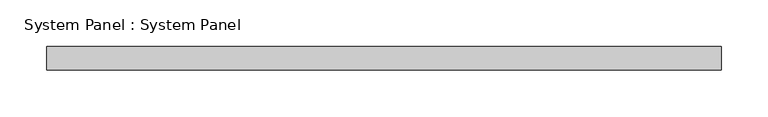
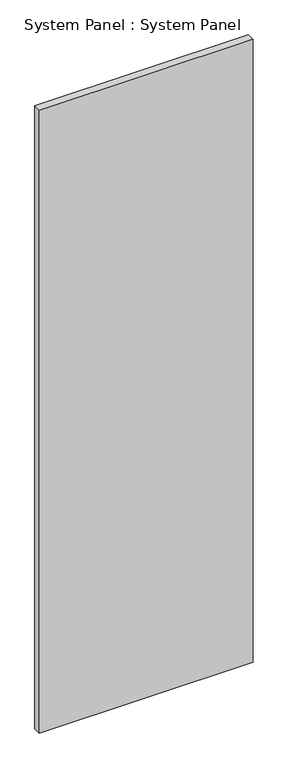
"""IFC4 building model written with IfcOpenShell, lengths in millimetres: plate geometry, System Panel : System Panel."""

from ifc_helpers import new_model, si_unit, origin, origin_with_axes, place, context, project, spatial, polyline, outline, extrude, source, transform, mapped, element, save


def system_panel_system_panel_25a6b319(model_context):
    return source(origin(), model_context, "Body", "SweptSolid", [
        extrude(outline(polyline([(361.95, 19.05), (-361.95, 19.05), (-361.95, 44.45), (361.95, 44.45), (361.95, 19.05)])), origin_with_axes(), (0.0, 0.0, 1.0), 2228.85),
    ])


if __name__ == "__main__":
    model = new_model("IFC4")
    model_context = context("Model", 3, world=origin())
    ifc_project = project(units=[si_unit("LENGTHUNIT", "METRE", prefix="MILLI")], contexts=[model_context])
    site = spatial("IfcSite", under=ifc_project)
    building = spatial("IfcBuilding", under=site)
    placement = place(None, origin())
    system_panel_system_panel_shape = system_panel_system_panel_25a6b319(model_context)
    element("IfcPlate", 1, ObjectType="System Panel : System Panel", at=placement, inside=building, context=model_context, shape_type="MappedRepresentation", body=[
        mapped(system_panel_system_panel_shape, transform((0.0, 0.0, 0.0), x_axis=(1.0, 0.0, 0.0), y_axis=(0.0, 1.0, 0.0), z_axis=(0.0, 0.0, 1.0))),
    ])
    save(model, "model.ifc")
